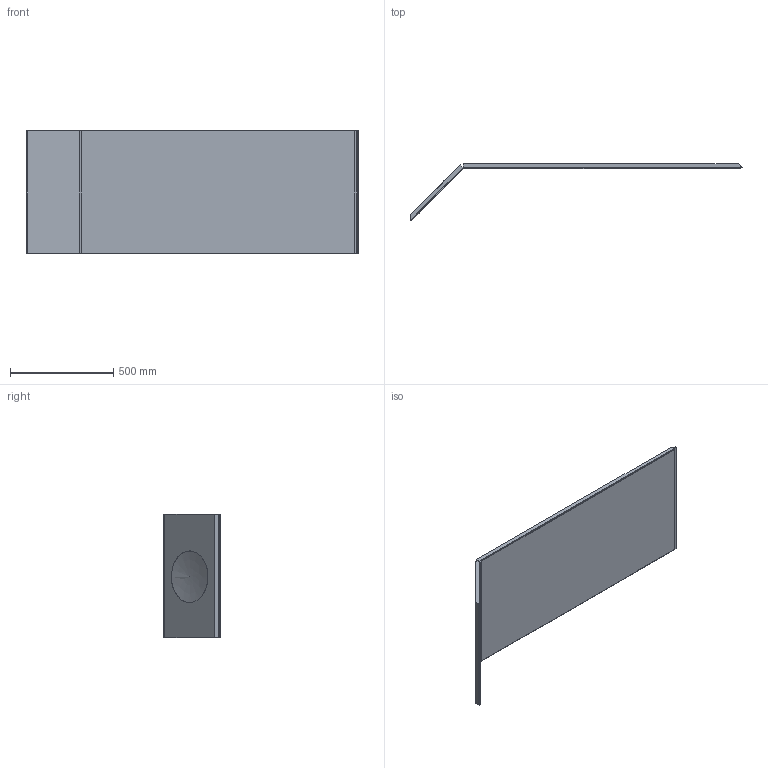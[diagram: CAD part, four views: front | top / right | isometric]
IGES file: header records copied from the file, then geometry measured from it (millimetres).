
Start section: Data from Parasolid IGES Translator 19.0.9, Copyright(c) 2006 Siemens PL M Software. All Rights Reserved.
Global section: file name: noorth-mirror-H 60 D 2,5 W 171_4243.igs; native system: By Siemens PLM Incorporated; preprocessor: XPlus GENERIC/IGES 19.0.9; author: Noname; organization: Noname; date: 20210721.092843; units: metre
Bounding box: 1607.36 x 274.85 x 600 mm (x, y, z)
Volume: 22970412.1 mm3; surface area: 4357593.3 mm2
Topology: 7 solids, 7 shells, 101 faces, 215 edges, 127 vertices
Faces by surface type: plane 83, cylinder 15, bspline 3
Full cylindrical faces by diameter (mm): 250 x1
